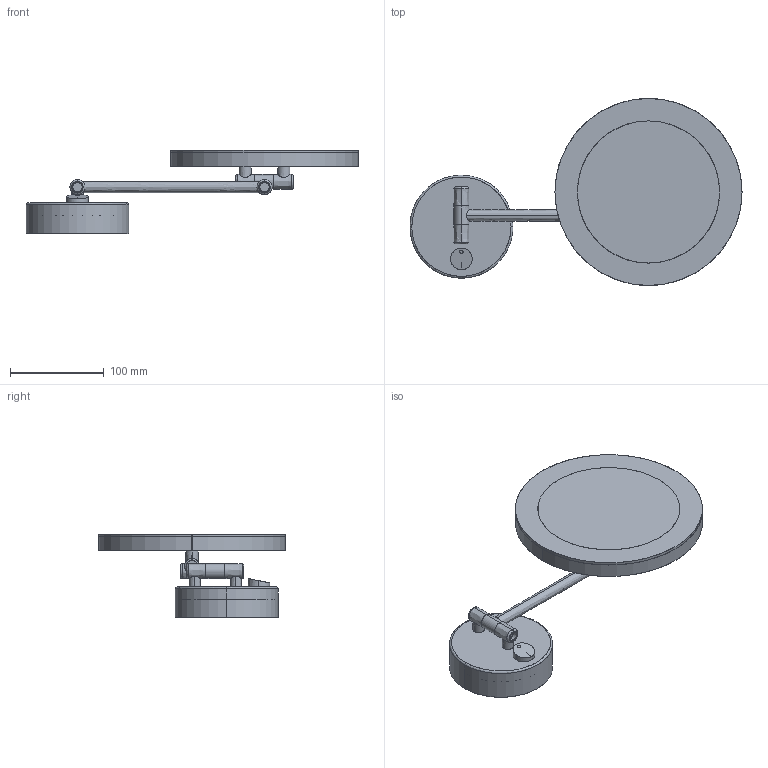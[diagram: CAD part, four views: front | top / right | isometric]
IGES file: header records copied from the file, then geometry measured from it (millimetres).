
Start section: SolidWorks IGES file using analytic representation for surfaces
Global section: file name: C:\Users\danielet\Desktop\3D CARLOS\BOAN-A3252-3D\BOAN-A3252-3D.IGS; native system: SolidWorks 2018; preprocessor: SolidWorks 2018; author: danielet; date: 220203.143828; units: millimetre
Bounding box: 355 x 200 x 89.5 mm (x, y, z)
Surface area: 194160.2 mm2 (no closed solid volume)
Topology: 0 solids, 0 shells, 110 faces, 3110 edges, 3110 vertices
Faces by surface type: revolution 60, bspline 50
